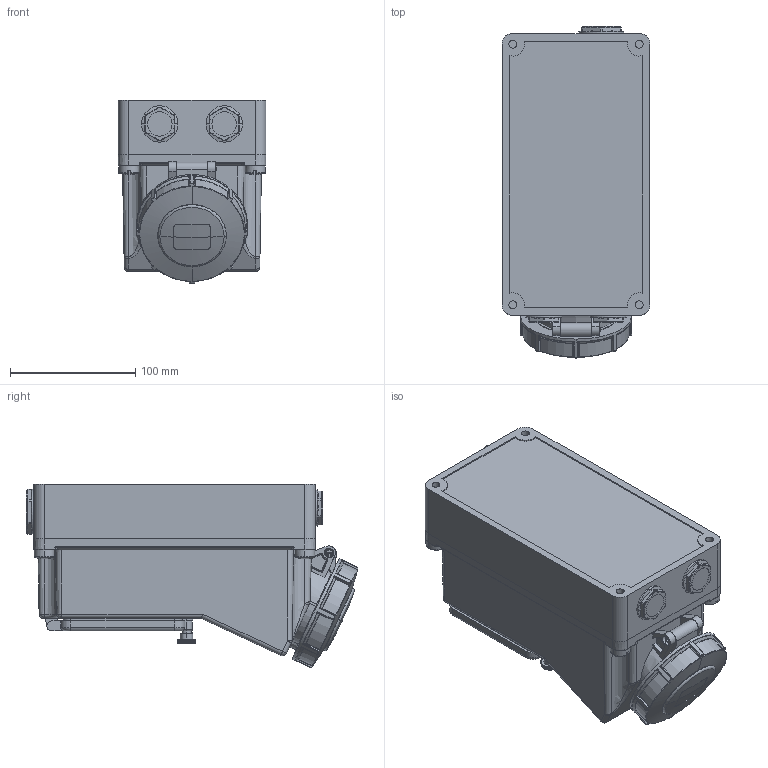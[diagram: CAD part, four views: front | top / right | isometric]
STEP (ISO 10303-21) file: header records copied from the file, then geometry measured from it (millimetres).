
FILE_DESCRIPTION((''),'2;1');
FILE_NAME('1113909_ASM_SW0001','2018-01-19T',('gisse'),('MENNEKES'),'PRO/ENGINEER BY PARAMETRIC TECHNOLOGY CORPORATION, 2015440','PRO/ENGINEER BY PARAMETRIC TECHNOLOGY CORPORATION, 2015440','');
FILE_SCHEMA(('AUTOMOTIVE_DESIGN { 1 0 10303 214 1 1 1 1 }'));
Products named in the file (1): 1113909_ASM_SW0001
Bounding box: 118 x 264.9 x 146.64 mm (x, y, z)
Volume: 3026848.4 mm3; surface area: 158054.5 mm2
Topology: 1 solids, 2 shells, 1442 faces, 3784 edges, 2373 vertices
Faces by surface type: plane 585, cylinder 290, cone 258, bspline 161, torus 82, sphere 66
Entity records: 84330 total; most frequent: CARTESIAN_POINT 21929, ORIENTED_EDGE 7564, DIRECTION 6380, PRESENTATION_STYLE_ASSIGNMENT 5211, STYLED_ITEM 3783, CURVE_STYLE 3782, EDGE_CURVE 3782, FILL_AREA_STYLE_COLOUR 2857
